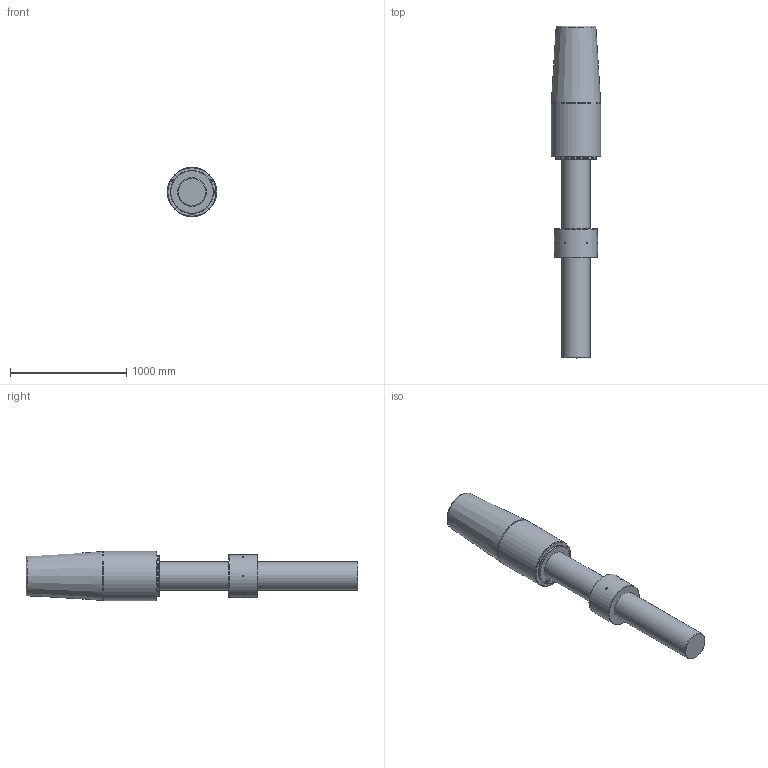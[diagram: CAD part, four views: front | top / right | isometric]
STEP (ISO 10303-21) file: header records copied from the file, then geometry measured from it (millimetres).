
FILE_DESCRIPTION(/* description */ (''),/* implementation_level */ '2;1');
FILE_NAME(/* name */ 'D:\Clienti\Redaelli (inventor)\CYB\STEP\Arrangement\CYB148 52 061 0.stp',/* time_stamp */ '2021-05-08T15:04:23+02:00',/* author */ ('fabri'),/* organization */ (''),/* preprocessor_version */ 'ST-DEVELOPER v16.13',/* originating_system */ 'Autodesk Inventor 2018',/* authorisation */ '');
FILE_SCHEMA (('AUTOMOTIVE_DESIGN { 1 0 10303 214 3 1 1 }'));
Length unit declared in the file: millimetre
Products named in the file (5): CYB148 52 061 0; RNT052 41 051 0_ROD; RNT052 41 051 0_ROD_1; CCY021-51-061-0_BUSH; CCY021-51-061-0
Assembly tree (4 placements, depth 2):
  CYB148 52 061 0
    RNT052 41 051 0_ROD
    RNT052 41 051 0_ROD_1
    CCY021-51-061-0_BUSH
    CCY021-51-061-0
Bounding box: 425 x 2856 x 425 mm (x, y, z)
Volume: 262947230.5 mm3; surface area: 4510111.4 mm2
Topology: 4 solids, 4 shells, 711 faces, 1896 edges, 1259 vertices
Faces by surface type: plane 357, bspline 316, cylinder 18, cone 16, torus 4
Full cylindrical faces by diameter (mm): 15 x6, 20.752 x3, 238.505 x2, 245 x1, 247 x1, 309 x1, 325 x1, 360 x1, 370 x1, 425 x1
Entity records: 23672 total; most frequent: CARTESIAN_POINT 8149, ORIENTED_EDGE 3694, DIRECTION 2055, EDGE_CURVE 1847, VERTEX_POINT 1249, LINE 1161, VECTOR 1161, EDGE_LOOP 820
